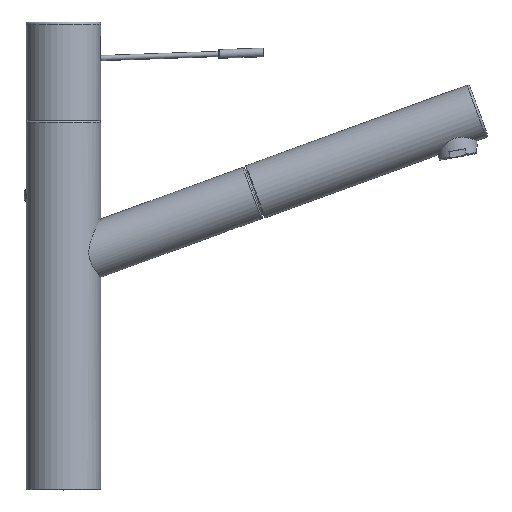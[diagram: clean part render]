
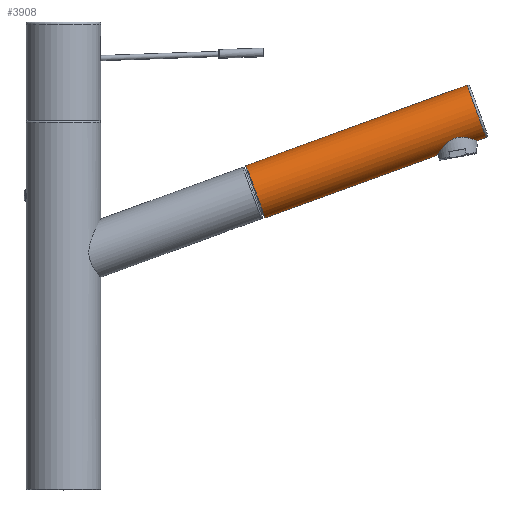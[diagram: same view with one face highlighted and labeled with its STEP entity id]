
A CAD part, top view. The second image highlights one B-rep face of the part: STEP entity #3908.
In plain terms, the highlighted cylindrical face has radius 16 mm (diameter 32 mm), a partial arc.
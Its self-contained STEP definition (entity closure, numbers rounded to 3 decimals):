
#1351=CARTESIAN_POINT('',(110.743,172.243,0.));
#1352=DIRECTION('',(-0.94,-0.342,0.));
#1353=DIRECTION('',(0.342,-0.94,0.));
#1354=AXIS2_PLACEMENT_3D('',#1351,#1352,#1353);
#1356=CARTESIAN_POINT('',(237.977,218.552,0.));
#1357=DIRECTION('',(-0.94,-0.342,0.));
#1358=DIRECTION('',(0.342,-0.94,0.));
#1359=AXIS2_PLACEMENT_3D('',#1356,#1357,#1358);
#1361=CARTESIAN_POINT('',(238.252,201.625,0.));
#1362=CARTESIAN_POINT('',(238.252,201.625,0.161));
#1363=CARTESIAN_POINT('',(238.245,201.628,0.484));
#1364=CARTESIAN_POINT('',(238.214,201.64,0.968));
#1365=CARTESIAN_POINT('',(238.162,201.66,1.451));
#1366=CARTESIAN_POINT('',(238.088,201.688,1.934));
#1367=CARTESIAN_POINT('',(237.994,201.724,2.416));
#1368=CARTESIAN_POINT('',(237.878,201.768,2.897));
#1369=CARTESIAN_POINT('',(237.741,201.82,3.376));
#1370=CARTESIAN_POINT('',(237.581,201.88,3.854));
#1371=CARTESIAN_POINT('',(237.399,201.947,4.329));
#1372=CARTESIAN_POINT('',(237.194,202.022,4.802));
#1373=CARTESIAN_POINT('',(236.966,202.105,5.271));
#1374=CARTESIAN_POINT('',(236.714,202.194,5.736));
#1375=CARTESIAN_POINT('',(236.438,202.291,6.196));
#1376=CARTESIAN_POINT('',(236.138,202.393,6.65));
#1377=CARTESIAN_POINT('',(235.814,202.501,7.096));
#1378=CARTESIAN_POINT('',(235.466,202.613,7.533));
#1379=CARTESIAN_POINT('',(235.095,202.729,7.959));
#1380=CARTESIAN_POINT('',(234.701,202.847,8.373));
#1381=CARTESIAN_POINT('',(234.287,202.966,8.772));
#1382=CARTESIAN_POINT('',(233.853,203.083,9.154));
#1383=CARTESIAN_POINT('',(233.404,203.197,9.517));
#1384=CARTESIAN_POINT('',(232.941,203.306,9.859));
#1385=CARTESIAN_POINT('',(232.47,203.407,10.177));
#1386=CARTESIAN_POINT('',(231.994,203.497,10.47));
#1387=CARTESIAN_POINT('',(231.517,203.576,10.738));
#1388=CARTESIAN_POINT('',(231.043,203.642,10.98));
#1389=CARTESIAN_POINT('',(230.576,203.694,11.196));
#1390=CARTESIAN_POINT('',(230.118,203.731,11.388));
#1391=CARTESIAN_POINT('',(229.67,203.753,11.557));
#1392=CARTESIAN_POINT('',(229.232,203.76,11.705));
#1393=CARTESIAN_POINT('',(228.806,203.753,11.833));
#1394=CARTESIAN_POINT('',(228.39,203.731,11.943));
#1395=CARTESIAN_POINT('',(227.983,203.695,12.036));
#1396=CARTESIAN_POINT('',(227.586,203.646,12.113));
#1397=CARTESIAN_POINT('',(227.195,203.582,12.177));
#1398=CARTESIAN_POINT('',(226.811,203.505,12.227));
#1399=CARTESIAN_POINT('',(226.431,203.414,12.264));
#1400=CARTESIAN_POINT('',(226.054,203.308,12.288));
#1401=CARTESIAN_POINT('',(225.679,203.187,12.301));
#1402=CARTESIAN_POINT('',(225.305,203.051,12.3));
#1403=CARTESIAN_POINT('',(224.929,202.898,12.288));
#1404=CARTESIAN_POINT('',(224.551,202.727,12.261));
#1405=CARTESIAN_POINT('',(224.169,202.537,12.221));
#1406=CARTESIAN_POINT('',(223.782,202.326,12.166));
#1407=CARTESIAN_POINT('',(223.388,202.094,12.094));
#1408=CARTESIAN_POINT('',(222.987,201.838,12.004));
#1409=CARTESIAN_POINT('',(222.578,201.558,11.894));
#1410=CARTESIAN_POINT('',(222.162,201.252,11.762));
#1411=CARTESIAN_POINT('',(221.739,200.92,11.606));
#1412=CARTESIAN_POINT('',(221.31,200.563,11.424));
#1413=CARTESIAN_POINT('',(220.876,200.181,11.214));
#1414=CARTESIAN_POINT('',(220.44,199.778,10.975));
#1415=CARTESIAN_POINT('',(220.007,199.358,10.708));
#1416=CARTESIAN_POINT('',(219.582,198.927,10.414));
#1417=CARTESIAN_POINT('',(219.168,198.492,10.093));
#1418=CARTESIAN_POINT('',(218.768,198.056,9.749));
#1419=CARTESIAN_POINT('',(218.384,197.626,9.383));
#1420=CARTESIAN_POINT('',(218.019,197.206,8.998));
#1421=CARTESIAN_POINT('',(217.676,196.801,8.599));
#1422=CARTESIAN_POINT('',(217.355,196.415,8.188));
#1423=CARTESIAN_POINT('',(217.057,196.05,7.769));
#1424=CARTESIAN_POINT('',(216.781,195.707,7.343));
#1425=CARTESIAN_POINT('',(216.527,195.386,6.913));
#1426=CARTESIAN_POINT('',(216.294,195.089,6.479));
#1427=CARTESIAN_POINT('',(216.081,194.814,6.044));
#1428=CARTESIAN_POINT('',(215.887,194.562,5.607));
#1429=CARTESIAN_POINT('',(215.712,194.332,5.171));
#1430=CARTESIAN_POINT('',(215.554,194.124,4.734));
#1431=CARTESIAN_POINT('',(215.412,193.936,4.298));
#1432=CARTESIAN_POINT('',(215.287,193.768,3.863));
#1433=CARTESIAN_POINT('',(215.176,193.62,3.43));
#1434=CARTESIAN_POINT('',(215.08,193.491,2.998));
#1435=CARTESIAN_POINT('',(214.998,193.38,2.567));
#1436=CARTESIAN_POINT('',(214.93,193.287,2.137));
#1437=CARTESIAN_POINT('',(214.874,193.212,1.708));
#1438=CARTESIAN_POINT('',(214.831,193.153,1.28));
#1439=CARTESIAN_POINT('',(214.801,193.112,0.853));
#1440=CARTESIAN_POINT('',(214.783,193.087,0.426));
#1441=CARTESIAN_POINT('',(214.779,193.082,0.142));
#1442=CARTESIAN_POINT('',(214.779,193.082,0.));
#1449=DIRECTION('',(-0.94,-0.342,0.));
#1450=VECTOR('',#1449,104.889);
#1451=CARTESIAN_POINT('',(214.779,193.082,0.));
#1452=LINE('',#1451,#1450);
#1536=DIRECTION('',(-0.94,-0.342,0.));
#1537=VECTOR('',#1536,5.531);
#1538=CARTESIAN_POINT('',(243.449,203.517,
0.));
#1539=LINE('',#1538,#1537);
#1545=DIRECTION('',(-0.94,-0.342,0.));
#1546=VECTOR('',#1545,135.4);
#1547=CARTESIAN_POINT('',(232.505,233.587,
0.));
#1548=LINE('',#1547,#1546);
#2374=CARTESIAN_POINT('',(232.505,233.587,0.));
#2375=CARTESIAN_POINT('',(243.449,203.517,0.));
#2376=VERTEX_POINT('',#2374);
#2377=VERTEX_POINT('',#2375);
#2378=VERTEX_POINT('',#1361);
#2379=VERTEX_POINT('',#1442);
#2384=CARTESIAN_POINT('',(105.27,187.278,0.));
#2385=CARTESIAN_POINT('',(116.215,157.207,0.));
#2386=VERTEX_POINT('',#2384);
#2387=VERTEX_POINT('',#2385);
#3890=CARTESIAN_POINT('',(104.015,169.794,0.));
#3891=DIRECTION('',(0.94,0.342,0.));
#3892=DIRECTION('',(0.342,-0.94,0.));
#3893=AXIS2_PLACEMENT_3D('',#3890,#3891,#3892);
#3894=CYLINDRICAL_SURFACE('',#3893,16.);
#3895=ORIENTED_EDGE('',*,*,#3877,.T.);
#3897=ORIENTED_EDGE('',*,*,#3896,.F.);
#3899=ORIENTED_EDGE('',*,*,#3898,.F.);
#3901=ORIENTED_EDGE('',*,*,#3900,.T.);
#3903=ORIENTED_EDGE('',*,*,#3902,.T.);
#3905=ORIENTED_EDGE('',*,*,#3904,.T.);
#3906=EDGE_LOOP('',(#3895,#3897,#3899,#3901,#3903,#3905));
#3907=FACE_OUTER_BOUND('',#3906,.F.);
#1355=CIRCLE('',#1354,16.);
#1360=CIRCLE('',#1359,16.);
#1443=B_SPLINE_CURVE_WITH_KNOTS('',3,(#1361,#1362,#1363,#1364,#1365,#1366,#1367,
#1368,#1369,#1370,#1371,#1372,#1373,#1374,#1375,#1376,#1377,#1378,#1379,#1380,
#1381,#1382,#1383,#1384,#1385,#1386,#1387,#1388,#1389,#1390,#1391,#1392,#1393,
#1394,#1395,#1396,#1397,#1398,#1399,#1400,#1401,#1402,#1403,#1404,#1405,#1406,
#1407,#1408,#1409,#1410,#1411,#1412,#1413,#1414,#1415,#1416,#1417,#1418,#1419,
#1420,#1421,#1422,#1423,#1424,#1425,#1426,#1427,#1428,#1429,#1430,#1431,#1432,
#1433,#1434,#1435,#1436,#1437,#1438,#1439,#1440,#1441,#1442),.UNSPECIFIED.,.F.,
.F.,(4,1,1,1,1,1,1,1,1,1,1,1,1,1,1,1,1,1,1,1,1,1,1,1,1,1,1,1,1,1,1,1,1,1,1,1,1,
1,1,1,1,1,1,1,1,1,1,1,1,1,1,1,1,1,1,1,1,1,1,1,1,1,1,1,1,1,1,1,1,1,1,1,1,1,1,1,1,
1,1,4),(0.,0.013,0.025,0.038,
0.051,0.063,0.076,0.089,
0.101,0.114,0.127,0.139,
0.152,0.165,0.177,0.19,
0.203,0.215,0.228,0.241,
0.253,0.266,0.278,0.291,
0.304,0.316,0.329,0.342,
0.354,0.367,0.38,0.392,
0.405,0.418,0.43,0.443,
0.456,0.468,0.481,0.494,
0.506,0.519,0.532,0.544,
0.557,0.57,0.582,0.595,
0.608,0.62,0.633,0.646,
0.658,0.671,0.684,0.696,
0.709,0.722,0.734,0.747,
0.759,0.772,0.785,0.797,
0.81,0.823,0.835,0.848,
0.861,0.873,0.886,0.899,
0.911,0.924,0.937,0.949,
0.962,0.975,0.987,1.),.UNSPECIFIED.);
#3877=EDGE_CURVE('',#2387,#2386,#1355,.T.);
#3896=EDGE_CURVE('',#2376,#2386,#1548,.T.);
#3898=EDGE_CURVE('',#2377,#2376,#1360,.T.);
#3900=EDGE_CURVE('',#2377,#2378,#1539,.T.);
#3902=EDGE_CURVE('',#2378,#2379,#1443,.T.);
#3904=EDGE_CURVE('',#2379,#2387,#1452,.T.);
#3908=ADVANCED_FACE('',(#3907),#3894,.T.);
